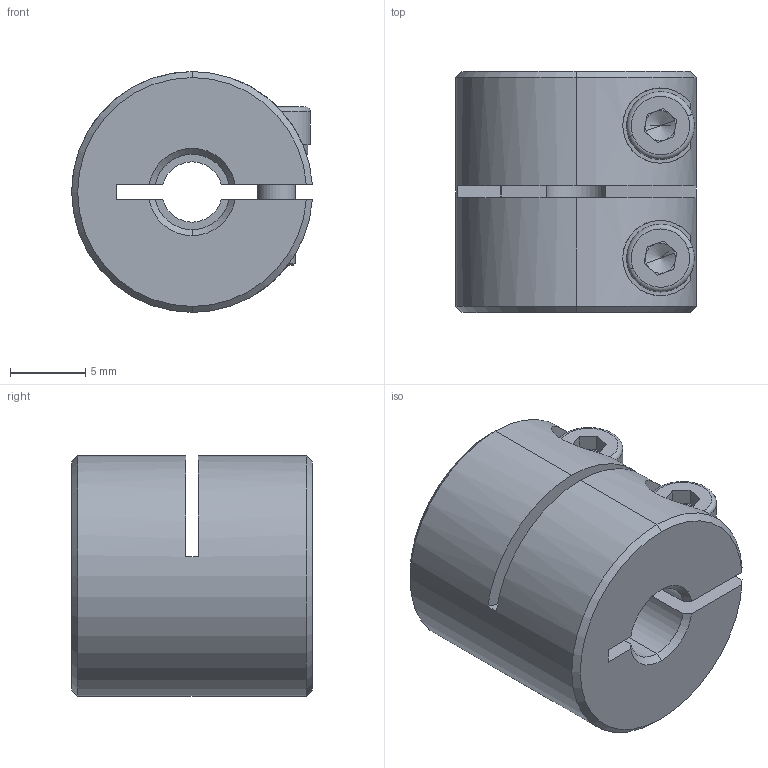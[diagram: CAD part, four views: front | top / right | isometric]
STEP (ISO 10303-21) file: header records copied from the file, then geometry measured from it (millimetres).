
FILE_DESCRIPTION (( 'STEP AP203' ), '1' );
FILE_NAME ('LL-B-D16L16-4-5.STEP', '2021-11-03T02:37:25', ( '' ), ( '' ), 'SwSTEP 2.0', 'SolidWorks 2018', '' );
FILE_SCHEMA (( 'CONFIG_CONTROL_DESIGN' ));
Length unit declared in the file: millimetre
Products named in the file (1): LL-B-D16L16-4-5
Bounding box: 15.98 x 16 x 16 mm (x, y, z)
Volume: 2717.5 mm3; surface area: 2020.9 mm2
Topology: 1 solids, 1 shells, 121 faces, 313 edges, 196 vertices
Faces by surface type: plane 52, cylinder 45, cone 20, torus 4
Entity records: 3948 total; most frequent: CARTESIAN_POINT 879, DIRECTION 653, ORIENTED_EDGE 618, EDGE_CURVE 309, AXIS2_PLACEMENT_3D 254, VERTEX_POINT 196, VECTOR 145, LINE 145
